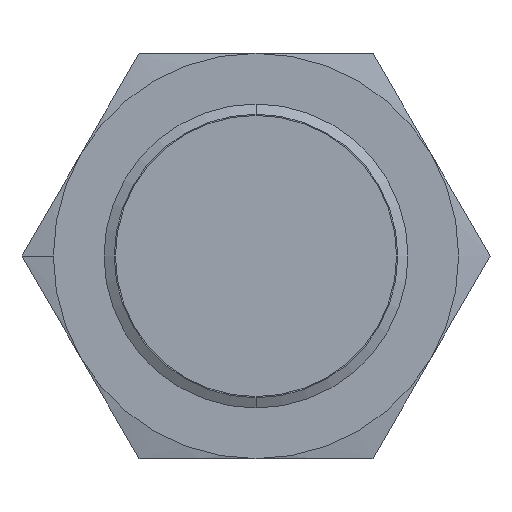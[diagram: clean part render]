
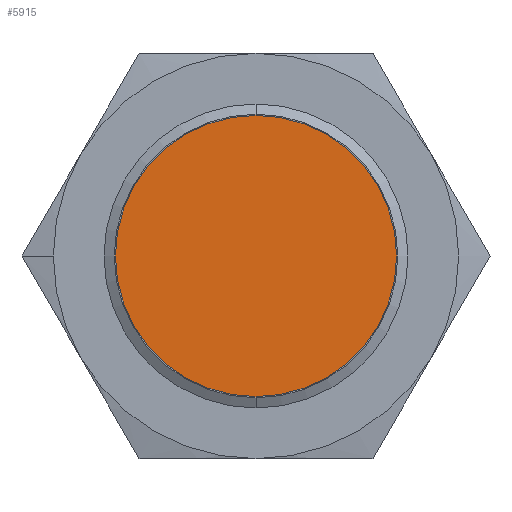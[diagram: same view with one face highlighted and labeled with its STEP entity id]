
A CAD part, left-side view. The second image highlights one B-rep face of the part: STEP entity #5915.
In plain terms, the highlighted planar face has unit normal (-1, 0, 0).
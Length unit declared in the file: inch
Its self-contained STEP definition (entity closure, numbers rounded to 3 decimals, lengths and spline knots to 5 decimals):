
#627 = VERTEX_POINT ( 'NONE', #7745 ) ;
#875 = VERTEX_POINT ( 'NONE', #7909 ) ;
#1133 = EDGE_CURVE ( 'NONE', #875, #627, #8066, .T. ) ;
#5290 = EDGE_CURVE ( 'NONE', #627, #875, #10324, .T. ) ;
#5543 = ORIENTED_EDGE ( 'NONE', *, *, #5290, .F. ) ;
#5680 = ORIENTED_EDGE ( 'NONE', *, *, #1133, .F. ) ;
#5861 = EDGE_LOOP ( 'NONE', ( #5680, #5543 ) ) ;
#5915 = ADVANCED_FACE ( 'NONE', ( #11362 ), #11363, .F. ) ;
#7745 = CARTESIAN_POINT ( 'NONE',  ( 7.73668, 0., -8.12049 ) ) ;
#7909 = CARTESIAN_POINT ( 'NONE',  ( 7.73668, 0., -8.77549 ) ) ;
#8066 = CIRCLE ( 'NONE', #8067, 0.3275 ) ;
#8067 = AXIS2_PLACEMENT_3D ( 'NONE', #8068, #8069, #8070 ) ;
#8068 = CARTESIAN_POINT ( 'NONE',  ( 7.73668, 0., -8.44799 ) ) ;
#8069 = DIRECTION ( 'NONE',  ( 1., 0., 0. ) ) ;
#8070 = DIRECTION ( 'NONE',  ( 0., 0., -1. ) ) ;
#10324 = CIRCLE ( 'NONE', #10325, 0.3275 ) ;
#10325 = AXIS2_PLACEMENT_3D ( 'NONE', #10326, #10327, #10331 ) ;
#10326 = CARTESIAN_POINT ( 'NONE',  ( 7.73668, 0., -8.44799 ) ) ;
#10327 = DIRECTION ( 'NONE',  ( 1., 0., 0. ) ) ;
#10331 = DIRECTION ( 'NONE',  ( 0., 0., -1. ) ) ;
#11362 = FACE_OUTER_BOUND ( 'NONE', #5861, .T. ) ;
#11363 = PLANE ( 'NONE',  #11364 ) ;
#11364 = AXIS2_PLACEMENT_3D ( 'NONE', #11365, #11372, #11373 ) ;
#11365 = CARTESIAN_POINT ( 'NONE',  ( 7.73668, 0., -8.44799 ) ) ;
#11372 = DIRECTION ( 'NONE',  ( 1., 0., 0. ) ) ;
#11373 = DIRECTION ( 'NONE',  ( 0., 0., -1. ) ) ;
